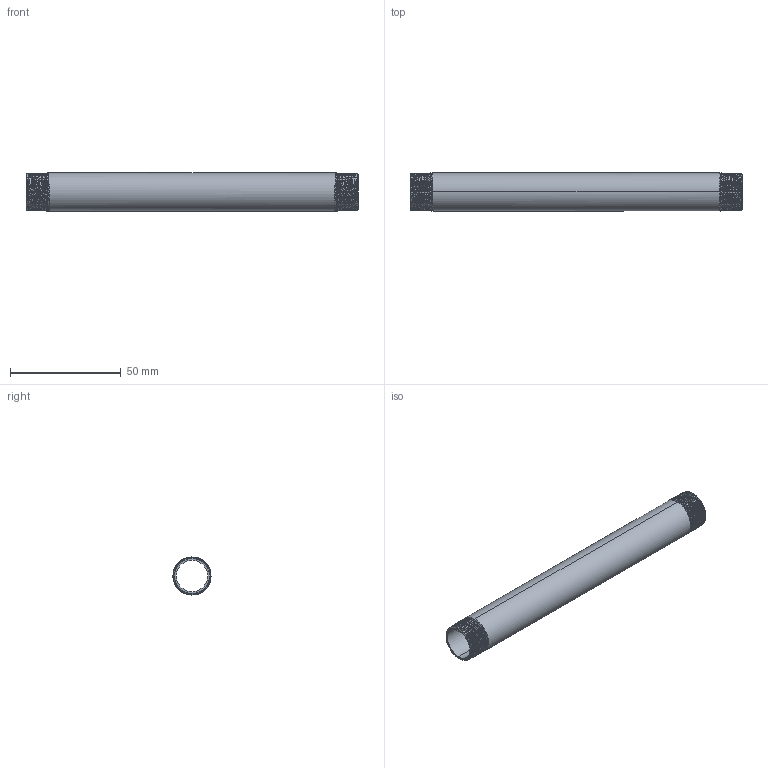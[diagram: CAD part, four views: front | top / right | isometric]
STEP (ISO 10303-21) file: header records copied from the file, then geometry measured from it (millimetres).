
FILE_DESCRIPTION (( 'STEP AP203' ), '1' );
FILE_NAME ('3D_R210_3-8x150_17185420.STEP', '2024-08-16T10:47:40', ( '' ), ( '' ), 'SwSTEP 2.0', 'SolidWorks 2024', '' );
FILE_SCHEMA (( 'CONFIG_CONTROL_DESIGN' ));
Length unit declared in the file: millimetre
Products named in the file (1): 3D_R210_3-8x150_17185420
Bounding box: 150 x 17.19 x 17.2 mm (x, y, z)
Volume: 10874.3 mm3; surface area: 15374.5 mm2
Topology: 1 solids, 1 shells, 76 faces, 218 edges, 144 vertices
Faces by surface type: cone 62, bspline 6, cylinder 4, plane 4
Entity records: 11224 total; most frequent: CARTESIAN_POINT 9454, ORIENTED_EDGE 436, DIRECTION 230, EDGE_CURVE 218, VERTEX_POINT 144, B_SPLINE_CURVE_WITH_KNOTS 132, AXIS2_PLACEMENT_3D 81, EDGE_LOOP 78
